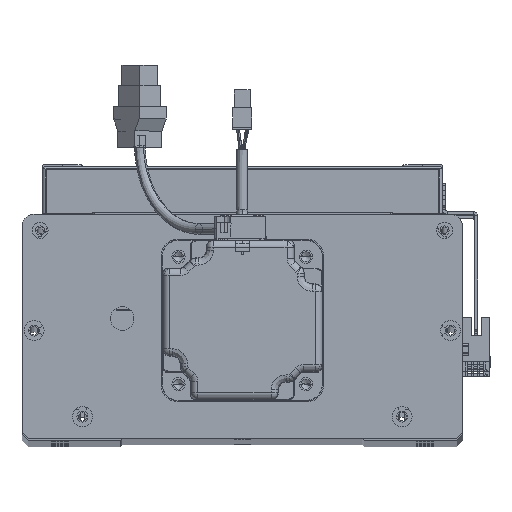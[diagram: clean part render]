
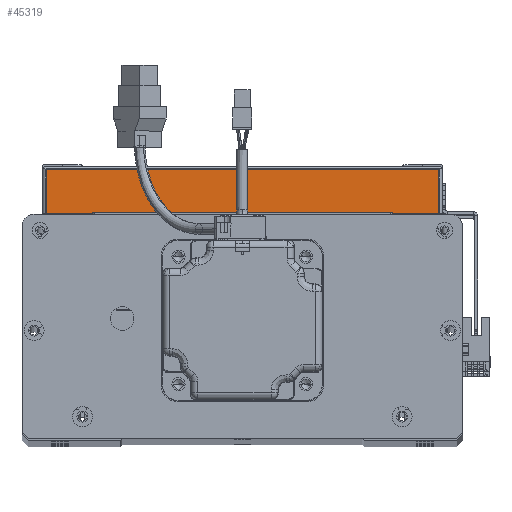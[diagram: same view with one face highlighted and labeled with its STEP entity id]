
A CAD part, top view. The second image highlights one B-rep face of the part: STEP entity #45319.
In plain terms, the highlighted planar face has unit normal (0, 0, 1) as drawn and (1, 0, 0) by its records, which use the part's own axes.
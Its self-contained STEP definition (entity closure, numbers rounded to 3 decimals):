
#9009 = EDGE_LOOP ( 'NONE', ( #20202, #54145, #41097, #58955 ) ) ;
#13254 = LINE ( 'NONE', #34568, #30100 ) ;
#13323 = DIRECTION ( 'NONE',  ( 0., 1., 0. ) ) ;
#17651 = EDGE_CURVE ( 'NONE', #55412, #40235, #51307, .T. ) ;
#20202 = ORIENTED_EDGE ( 'NONE', *, *, #17651, .T. ) ;
#23165 = LINE ( 'NONE', #49866, #47724 ) ;
#23535 = FACE_OUTER_BOUND ( 'NONE', #9009, .T. ) ;
#23603 = DIRECTION ( 'NONE',  ( 0., 0., 1. ) ) ;
#23634 = DIRECTION ( 'NONE',  ( 0., -1., 0. ) ) ;
#23906 = EDGE_CURVE ( 'NONE', #41720, #60483, #23165, .T. ) ;
#28162 = CARTESIAN_POINT ( 'NONE',  ( 150., 22.5, -98. ) ) ;
#28993 = PLANE ( 'NONE',  #31050 ) ;
#29233 = CARTESIAN_POINT ( 'NONE',  ( 150., 23.5, -100. ) ) ;
#30100 = VECTOR ( 'NONE', #40259, 1000. ) ;
#31050 = AXIS2_PLACEMENT_3D ( 'NONE', #29233, #51019, #23603 ) ;
#31806 = VECTOR ( 'NONE', #13323, 1000. ) ;
#34568 = CARTESIAN_POINT ( 'NONE',  ( 150., 22.5, 98. ) ) ;
#34978 = EDGE_CURVE ( 'NONE', #60483, #55412, #70067, .T. ) ;
#37590 = CARTESIAN_POINT ( 'NONE',  ( 150., 0., -98. ) ) ;
#40235 = VERTEX_POINT ( 'NONE', #28162 ) ;
#40259 = DIRECTION ( 'NONE',  ( 0., 0., 1. ) ) ;
#40514 = CARTESIAN_POINT ( 'NONE',  ( 150., 23.5, -98. ) ) ;
#41097 = ORIENTED_EDGE ( 'NONE', *, *, #23906, .T. ) ;
#41720 = VERTEX_POINT ( 'NONE', #67483 ) ;
#45319 = ADVANCED_FACE ( 'NONE', ( #23535 ), #28993, .F. ) ;
#47281 = VECTOR ( 'NONE', #48010, 1000. ) ;
#47724 = VECTOR ( 'NONE', #23634, 1000. ) ;
#48010 = DIRECTION ( 'NONE',  ( 0., 0., -1. ) ) ;
#49866 = CARTESIAN_POINT ( 'NONE',  ( 150., 23.5, 98. ) ) ;
#51019 = DIRECTION ( 'NONE',  ( -1., 0., 0. ) ) ;
#51307 = LINE ( 'NONE', #40514, #31806 ) ;
#52018 = EDGE_CURVE ( 'NONE', #40235, #41720, #13254, .T. ) ;
#54145 = ORIENTED_EDGE ( 'NONE', *, *, #52018, .T. ) ;
#55412 = VERTEX_POINT ( 'NONE', #37590 ) ;
#58674 = CARTESIAN_POINT ( 'NONE',  ( 150., 0., -100. ) ) ;
#58955 = ORIENTED_EDGE ( 'NONE', *, *, #34978, .T. ) ;
#60483 = VERTEX_POINT ( 'NONE', #60493 ) ;
#60493 = CARTESIAN_POINT ( 'NONE',  ( 150., 0., 98. ) ) ;
#67483 = CARTESIAN_POINT ( 'NONE',  ( 150., 22.5, 98. ) ) ;
#70067 = LINE ( 'NONE', #58674, #47281 ) ;
